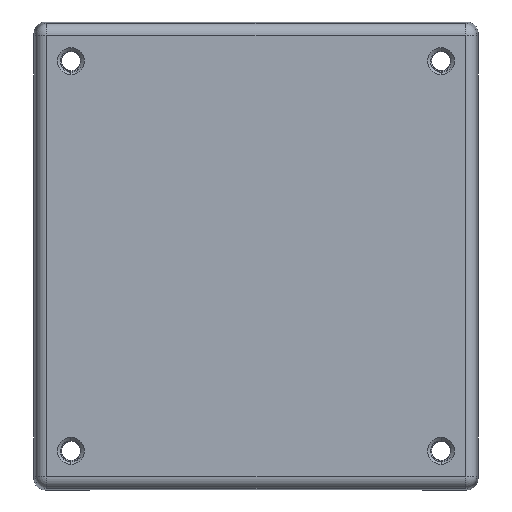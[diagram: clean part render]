
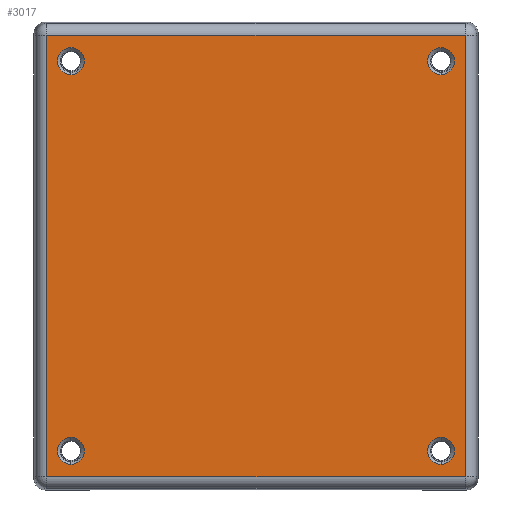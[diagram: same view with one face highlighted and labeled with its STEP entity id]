
A CAD part, front view. The second image highlights one B-rep face of the part: STEP entity #3017.
In plain terms, the highlighted planar face has unit normal (0, -1, 0).
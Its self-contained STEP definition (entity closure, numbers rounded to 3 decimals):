
#2779 = ORIENTED_EDGE ( 'NONE', *, *, #4638, .T. ) ;
#2780 = ORIENTED_EDGE ( 'NONE', *, *, #4610, .T. ) ;
#2781 = EDGE_LOOP ( 'NONE', ( #2782, #3111 ) ) ;
#2782 = ORIENTED_EDGE ( 'NONE', *, *, #4678, .T. ) ;
#2985 = EDGE_CURVE ( 'NONE', #3075, #2986, #11996, .T. ) ;
#2986 = VERTEX_POINT ( 'NONE', #11989 ) ;
#3017 = ADVANCED_FACE ( 'NONE', ( #12424, #12422, #12420, #12418, #12417 ), #12415, .F. ) ;
#3018 = EDGE_LOOP ( 'NONE', ( #3019, #3020 ) ) ;
#3019 = ORIENTED_EDGE ( 'NONE', *, *, #4401, .T. ) ;
#3020 = ORIENTED_EDGE ( 'NONE', *, *, #4525, .T. ) ;
#3021 = EDGE_LOOP ( 'NONE', ( #3022, #3023 ) ) ;
#3022 = ORIENTED_EDGE ( 'NONE', *, *, #4603, .T. ) ;
#3023 = ORIENTED_EDGE ( 'NONE', *, *, #4546, .T. ) ;
#3024 = EDGE_LOOP ( 'NONE', ( #2779, #2780 ) ) ;
#3074 = EDGE_CURVE ( 'NONE', #3247, #3075, #12524, .T. ) ;
#3075 = VERTEX_POINT ( 'NONE', #12508 ) ;
#3108 = ORIENTED_EDGE ( 'NONE', *, *, #2985, .T. ) ;
#3111 = ORIENTED_EDGE ( 'NONE', *, *, #4635, .T. ) ;
#3244 = EDGE_CURVE ( 'NONE', #2986, #3246, #13419, .T. ) ;
#3246 = VERTEX_POINT ( 'NONE', #13410 ) ;
#3247 = VERTEX_POINT ( 'NONE', #13408 ) ;
#3248 = ORIENTED_EDGE ( 'NONE', *, *, #3074, .T. ) ;
#3249 = EDGE_LOOP ( 'NONE', ( #3250, #3248, #3108, #3348 ) ) ;
#3250 = ORIENTED_EDGE ( 'NONE', *, *, #3251, .T. ) ;
#3251 = EDGE_CURVE ( 'NONE', #3246, #3247, #13220, .T. ) ;
#3348 = ORIENTED_EDGE ( 'NONE', *, *, #3244, .T. ) ;
#4399 = VERTEX_POINT ( 'NONE', #18670 ) ;
#4401 = EDGE_CURVE ( 'NONE', #4402, #4399, #18669, .T. ) ;
#4402 = VERTEX_POINT ( 'NONE', #18659 ) ;
#4525 = EDGE_CURVE ( 'NONE', #4399, #4402, #19077, .T. ) ;
#4546 = EDGE_CURVE ( 'NONE', #4713, #4688, #18928, .T. ) ;
#4603 = EDGE_CURVE ( 'NONE', #4688, #4713, #19013, .T. ) ;
#4610 = EDGE_CURVE ( 'NONE', #4750, #4639, #19045, .T. ) ;
#4635 = EDGE_CURVE ( 'NONE', #4756, #4702, #19325, .T. ) ;
#4638 = EDGE_CURVE ( 'NONE', #4639, #4750, #19309, .T. ) ;
#4639 = VERTEX_POINT ( 'NONE', #19304 ) ;
#4678 = EDGE_CURVE ( 'NONE', #4702, #4756, #19204, .T. ) ;
#4688 = VERTEX_POINT ( 'NONE', #19187 ) ;
#4702 = VERTEX_POINT ( 'NONE', #19424 ) ;
#4713 = VERTEX_POINT ( 'NONE', #19492 ) ;
#4750 = VERTEX_POINT ( 'NONE', #19390 ) ;
#4756 = VERTEX_POINT ( 'NONE', #19576 ) ;
#11989 = CARTESIAN_POINT ( 'NONE',  ( 27.254, -12.7, 28.804 ) ) ;
#11991 = DIRECTION ( 'NONE',  ( 0., 0., 1. ) ) ;
#11993 = VECTOR ( 'NONE', #11991, 1000. ) ;
#11995 = CARTESIAN_POINT ( 'NONE',  ( 27.254, -12.7, 30.278 ) ) ;
#11996 = LINE ( 'NONE', #11995, #11993 ) ;
#12403 = DIRECTION ( 'NONE',  ( 0., 0., 1. ) ) ;
#12405 = DIRECTION ( 'NONE',  ( 0., 1., 0. ) ) ;
#12407 = AXIS2_PLACEMENT_3D ( 'NONE', #12413, #12405, #12403 ) ;
#12413 = CARTESIAN_POINT ( 'NONE',  ( -28.95, -12.7, 30.5 ) ) ;
#12415 = PLANE ( 'NONE',  #12407 ) ;
#12417 = FACE_OUTER_BOUND ( 'NONE', #3249, .T. ) ;
#12418 = FACE_BOUND ( 'NONE', #2781, .T. ) ;
#12420 = FACE_BOUND ( 'NONE', #3024, .T. ) ;
#12422 = FACE_BOUND ( 'NONE', #3021, .T. ) ;
#12424 = FACE_BOUND ( 'NONE', #3018, .T. ) ;
#12508 = CARTESIAN_POINT ( 'NONE',  ( 27.254, -12.7, -28.804 ) ) ;
#12510 = DIRECTION ( 'NONE',  ( 1., 0., 0. ) ) ;
#12512 = VECTOR ( 'NONE', #12510, 1000. ) ;
#12513 = CARTESIAN_POINT ( 'NONE',  ( 28.728, -12.7, -28.804 ) ) ;
#12524 = LINE ( 'NONE', #12513, #12512 ) ;
#13215 = DIRECTION ( 'NONE',  ( 0., 0., -1. ) ) ;
#13216 = VECTOR ( 'NONE', #13215, 1000. ) ;
#13218 = CARTESIAN_POINT ( 'NONE',  ( -27.254, -12.7, -30.278 ) ) ;
#13220 = LINE ( 'NONE', #13218, #13216 ) ;
#13408 = CARTESIAN_POINT ( 'NONE',  ( -27.254, -12.7, -28.804 ) ) ;
#13410 = CARTESIAN_POINT ( 'NONE',  ( -27.254, -12.7, 28.804 ) ) ;
#13412 = DIRECTION ( 'NONE',  ( -1., 0., 0. ) ) ;
#13414 = VECTOR ( 'NONE', #13412, 1000. ) ;
#13416 = CARTESIAN_POINT ( 'NONE',  ( -28.728, -12.7, 28.804 ) ) ;
#13419 = LINE ( 'NONE', #13416, #13414 ) ;
#18659 = CARTESIAN_POINT ( 'NONE',  ( 24.125, -12.7, 23.65 ) ) ;
#18660 = DIRECTION ( 'NONE',  ( 0., 0., 1. ) ) ;
#18661 = DIRECTION ( 'NONE',  ( 0., 1., 0. ) ) ;
#18662 = CARTESIAN_POINT ( 'NONE',  ( 24.125, -12.7, 25.4 ) ) ;
#18663 = AXIS2_PLACEMENT_3D ( 'NONE', #18662, #18661, #18660 ) ;
#18669 = CIRCLE ( 'NONE', #18663, 1.75 ) ;
#18670 = CARTESIAN_POINT ( 'NONE',  ( 24.125, -12.7, 27.15 ) ) ;
#18924 = DIRECTION ( 'NONE',  ( 0., 0., 1. ) ) ;
#18925 = DIRECTION ( 'NONE',  ( 0., 1., 0. ) ) ;
#18926 = CARTESIAN_POINT ( 'NONE',  ( 24.125, -12.7, -25.4 ) ) ;
#18927 = AXIS2_PLACEMENT_3D ( 'NONE', #18926, #18925, #18924 ) ;
#18928 = CIRCLE ( 'NONE', #18927, 1.75 ) ;
#19009 = DIRECTION ( 'NONE',  ( 0., 0., 1. ) ) ;
#19010 = DIRECTION ( 'NONE',  ( 0., 1., 0. ) ) ;
#19011 = CARTESIAN_POINT ( 'NONE',  ( 24.125, -12.7, -25.4 ) ) ;
#19012 = AXIS2_PLACEMENT_3D ( 'NONE', #19011, #19010, #19009 ) ;
#19013 = CIRCLE ( 'NONE', #19012, 1.75 ) ;
#19040 = DIRECTION ( 'NONE',  ( 0., 0., 1. ) ) ;
#19041 = DIRECTION ( 'NONE',  ( 0., 1., 0. ) ) ;
#19042 = CARTESIAN_POINT ( 'NONE',  ( -24.125, -12.7, -25.4 ) ) ;
#19043 = AXIS2_PLACEMENT_3D ( 'NONE', #19042, #19041, #19040 ) ;
#19045 = CIRCLE ( 'NONE', #19043, 1.75 ) ;
#19073 = DIRECTION ( 'NONE',  ( 0., 0., 1. ) ) ;
#19074 = DIRECTION ( 'NONE',  ( 0., 1., 0. ) ) ;
#19075 = CARTESIAN_POINT ( 'NONE',  ( 24.125, -12.7, 25.4 ) ) ;
#19076 = AXIS2_PLACEMENT_3D ( 'NONE', #19075, #19074, #19073 ) ;
#19077 = CIRCLE ( 'NONE', #19076, 1.75 ) ;
#19187 = CARTESIAN_POINT ( 'NONE',  ( 24.125, -12.7, -27.15 ) ) ;
#19200 = DIRECTION ( 'NONE',  ( 0., 0., 1. ) ) ;
#19201 = DIRECTION ( 'NONE',  ( 0., 1., 0. ) ) ;
#19202 = CARTESIAN_POINT ( 'NONE',  ( -24.125, -12.7, 25.4 ) ) ;
#19203 = AXIS2_PLACEMENT_3D ( 'NONE', #19202, #19201, #19200 ) ;
#19204 = CIRCLE ( 'NONE', #19203, 1.75 ) ;
#19304 = CARTESIAN_POINT ( 'NONE',  ( -24.125, -12.7, -27.15 ) ) ;
#19305 = DIRECTION ( 'NONE',  ( 0., 0., 1. ) ) ;
#19306 = DIRECTION ( 'NONE',  ( 0., 1., 0. ) ) ;
#19307 = CARTESIAN_POINT ( 'NONE',  ( -24.125, -12.7, -25.4 ) ) ;
#19308 = AXIS2_PLACEMENT_3D ( 'NONE', #19307, #19306, #19305 ) ;
#19309 = CIRCLE ( 'NONE', #19308, 1.75 ) ;
#19310 = DIRECTION ( 'NONE',  ( 0., 0., 1. ) ) ;
#19311 = DIRECTION ( 'NONE',  ( 0., 1., 0. ) ) ;
#19322 = CARTESIAN_POINT ( 'NONE',  ( -24.125, -12.7, 25.4 ) ) ;
#19323 = AXIS2_PLACEMENT_3D ( 'NONE', #19322, #19311, #19310 ) ;
#19325 = CIRCLE ( 'NONE', #19323, 1.75 ) ;
#19390 = CARTESIAN_POINT ( 'NONE',  ( -24.125, -12.7, -23.65 ) ) ;
#19424 = CARTESIAN_POINT ( 'NONE',  ( -24.125, -12.7, 23.65 ) ) ;
#19492 = CARTESIAN_POINT ( 'NONE',  ( 24.125, -12.7, -23.65 ) ) ;
#19576 = CARTESIAN_POINT ( 'NONE',  ( -24.125, -12.7, 27.15 ) ) ;
